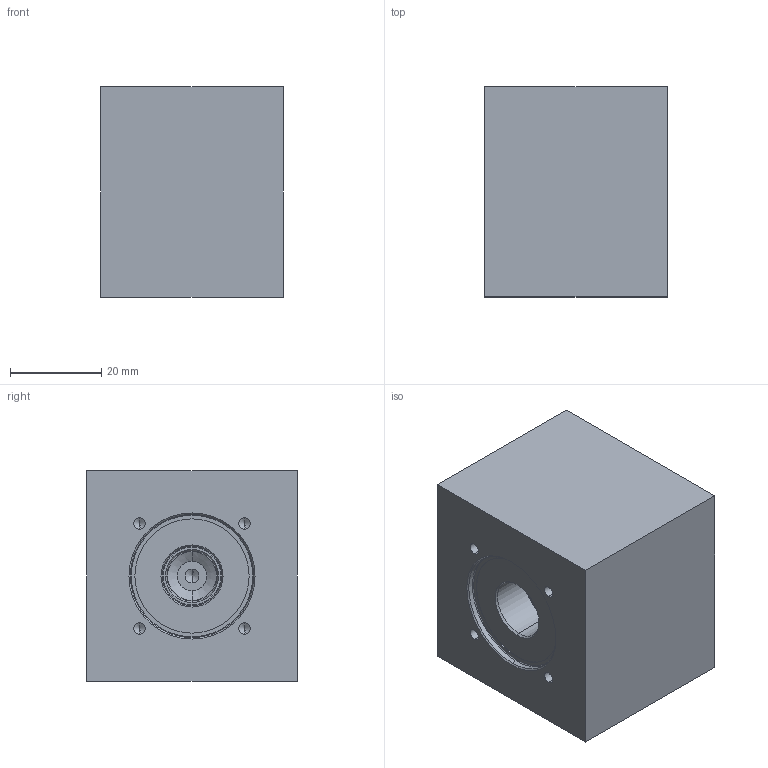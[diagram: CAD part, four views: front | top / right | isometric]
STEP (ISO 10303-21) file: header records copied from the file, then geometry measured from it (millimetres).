
FILE_DESCRIPTION (( 'STEP AP214' ), '1' );
FILE_NAME ('2.13-1012_.2203.STEP', '2022-02-09T12:03:51', ( '' ), ( '' ), 'SwSTEP 2.0', 'SolidWorks 2020', '' );
FILE_SCHEMA (( 'AUTOMOTIVE_DESIGN' ));
Length unit declared in the file: millimetre
Products named in the file (1): 2.13-1012_.2203
Bounding box: 40 x 46 x 46 mm (x, y, z)
Volume: 81039.5 mm3; surface area: 12774.1 mm2
Topology: 1 solids, 1 shells, 54 faces, 118 edges, 67 vertices
Faces by surface type: cylinder 22, cone 18, plane 12, torus 2
Entity records: 1530 total; most frequent: DIRECTION 274, CARTESIAN_POINT 230, ORIENTED_EDGE 216, AXIS2_PLACEMENT_3D 111, EDGE_CURVE 108, VERTEX_POINT 67, EDGE_LOOP 65, CIRCLE 56
